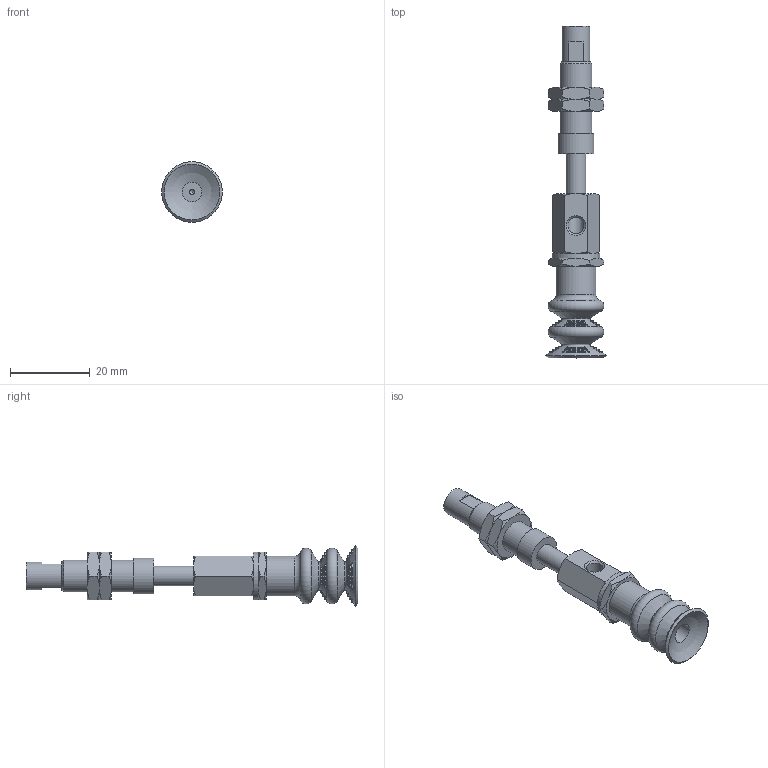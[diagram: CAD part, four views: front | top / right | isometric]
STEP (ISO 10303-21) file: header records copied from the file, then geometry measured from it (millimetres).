
FILE_DESCRIPTION(('STEP AP203'),'1');
FILE_NAME('.stp','2025-04-03T06:51:17',(' '),(' '),'Spatial InterOp 3D',' ',' ');
FILE_SCHEMA(('CONFIG_CONTROL_DESIGN'));
Length unit declared in the file: millimetre
Products named in the file (7): BNABPCYS-15-10-※; Adapter_napc-15-T; Connector_s-15-10; Nut napc_s-15-10; NAPCTS-15-10-FBODY; NAPCTS-15-10-MBODY; BPCG-15-※
Assembly tree (7 placements, depth 2):
  BNABPCYS-15-10-※
    Adapter_napc-15-T
    Connector_s-15-10
    Nut napc_s-15-10  x2
    NAPCTS-15-10-FBODY
    NAPCTS-15-10-MBODY
    BPCG-15-※
Bounding box: 15.2 x 83.2 x 15.2 mm (x, y, z)
Volume: 5600.4 mm3; surface area: 5724.1 mm2
Topology: 7 solids, 7 shells, 237 faces, 699 edges, 449 vertices
Faces by surface type: cone 68, plane 58, sphere 58, torus 34, cylinder 19
Full cylindrical faces by diameter (mm): 1.25 x1, 4.134 x3, 5 x8, 7 x1, 7.188 x2, 8 x1, 9 x1, 10 x1, 12 x1
Entity records: 6763 total; most frequent: CARTESIAN_POINT 1930, DIRECTION 980, ORIENTED_EDGE 830, AXIS2_PLACEMENT_3D 467, EDGE_CURVE 415, EDGE_LOOP 302, VERTEX_POINT 292, CIRCLE 243
